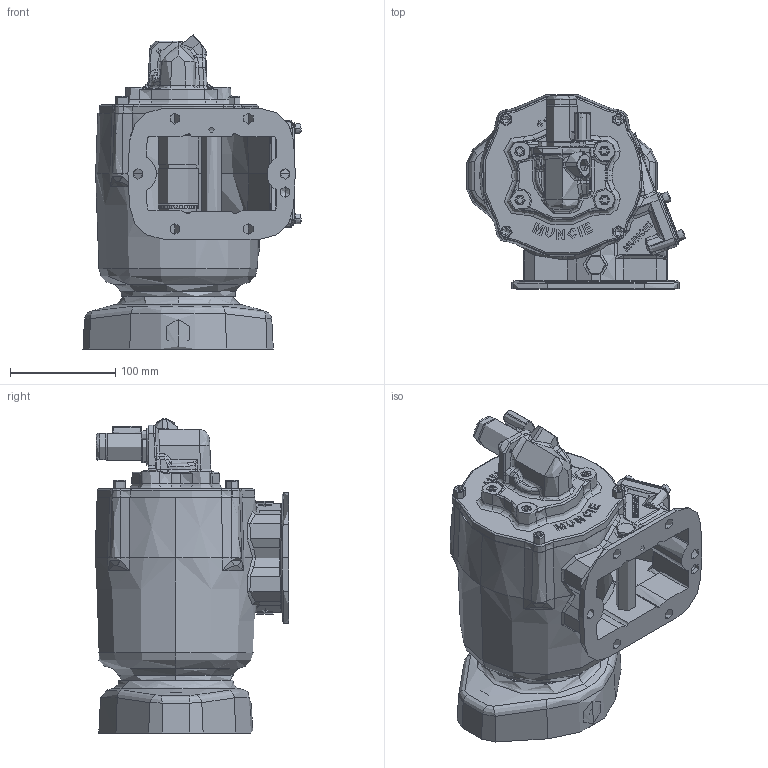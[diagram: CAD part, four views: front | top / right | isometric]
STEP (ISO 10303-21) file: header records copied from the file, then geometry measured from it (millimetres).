
FILE_DESCRIPTION (( 'STEP AP203' ), '1' );
FILE_NAME ('CS6S-XXXXX-S1LX.STEP', '2023-05-25T19:35:13', ( '' ), ( '' ), 'SwSTEP 2.0', 'SolidWorks 2021', '' );
FILE_SCHEMA (( 'CONFIG_CONTROL_DESIGN' ));
Length unit declared in the file: inch
Products named in the file (12): 15T41597; 35T40860a; 14T40714; 25T21684-1; 07T37071; 01t37073a; 19T35237; 06T37089_06T37089; 16T41119; CS6S-XXXXX-S1LX; 19T41118; 19T40859
Assembly tree (22 placements, depth 2):
  CS6S-XXXXX-S1LX
    01t37073a
    16T41119
    19T41118  x4
    19T35237  x4
    15T41597
    35T40860a
    25T21684-1  x5
    07T37071
    19T40859  x2
    14T40714
    06T37089_06T37089
Bounding box: 206.86 x 183.98 x 297.84 mm (x, y, z)
Topology: 21 solids, 25 shells, 2702 faces, 6882 edges, 4289 vertices
Faces by surface type: bspline 807, plane 705, cylinder 686, cone 335, torus 165, sphere 4
Entity records: 169142 total; most frequent: CARTESIAN_POINT 114059, ORIENTED_EDGE 12672, DIRECTION 8711, EDGE_CURVE 6338, VERTEX_POINT 3994, AXIS2_PLACEMENT_3D 3346, EDGE_LOOP 2702, B_SPLINE_CURVE_WITH_KNOTS 2597
